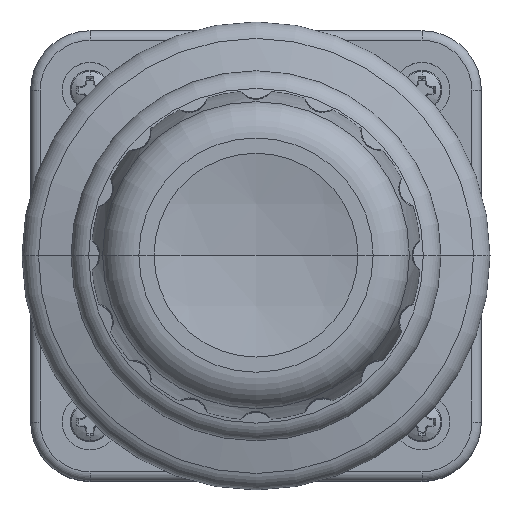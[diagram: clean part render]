
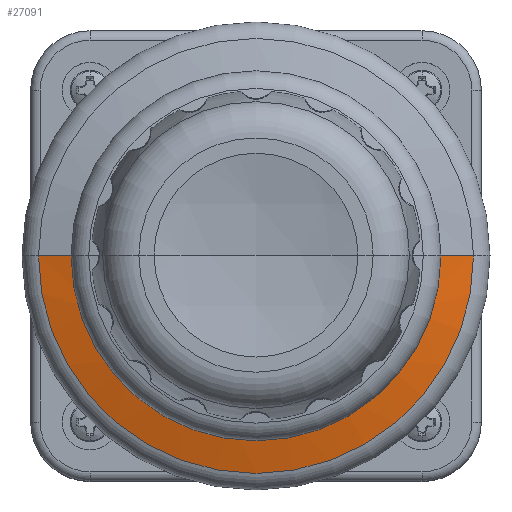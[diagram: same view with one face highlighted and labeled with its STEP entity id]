
A CAD part, top view. The second image highlights one B-rep face of the part: STEP entity #27091.
In plain terms, the highlighted conical face has half-angle 75 degrees and reference radius 11.437 mm.
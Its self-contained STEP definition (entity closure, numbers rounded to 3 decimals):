
#27091 = ADVANCED_FACE('',(#27092),#27107,.T.);
#27092 = FACE_BOUND('',#27093,.T.);
#27093 = EDGE_LOOP('',(#27094,#27118,#27146,#27175));
#27094 = ORIENTED_EDGE('',*,*,#27095,.T.);
#27095 = EDGE_CURVE('',#27096,#27098,#27100,.T.);
#27096 = VERTEX_POINT('',#27097);
#27097 = CARTESIAN_POINT('',(11.437,0.,
    12.684));
#27098 = VERTEX_POINT('',#27099);
#27099 = CARTESIAN_POINT('',(-11.438,0.,
    12.684));
#27100 = SURFACE_CURVE('',#27101,(#27106),.PCURVE_S1.);
#27101 = CIRCLE('',#27102,11.437);
#27102 = AXIS2_PLACEMENT_3D('',#27103,#27104,#27105);
#27103 = CARTESIAN_POINT('',(0.,0.,
    12.684));
#27104 = DIRECTION('',(0.,0.,-1.));
#27105 = DIRECTION('',(1.,0.,0.));
#27106 = PCURVE('',#27107,#27112);
#27107 = CONICAL_SURFACE('',#27108,11.437,1.309);
#27108 = AXIS2_PLACEMENT_3D('',#27109,#27110,#27111);
#27109 = CARTESIAN_POINT('',(0.,0.,
    12.684));
#27110 = DIRECTION('',(0.,0.,-1.));
#27111 = DIRECTION('',(1.,0.,0.));
#27112 = DEFINITIONAL_REPRESENTATION('',(#27113),#27117);
#27113 = LINE('',#27114,#27115);
#27114 = CARTESIAN_POINT('',(0.,0.));
#27115 = VECTOR('',#27116,1.);
#27116 = DIRECTION('',(1.,0.));
#27117 = ( GEOMETRIC_REPRESENTATION_CONTEXT(2) 
PARAMETRIC_REPRESENTATION_CONTEXT() REPRESENTATION_CONTEXT('2D SPACE',''
  ) );
#27118 = ORIENTED_EDGE('',*,*,#27119,.T.);
#27119 = EDGE_CURVE('',#27098,#27120,#27122,.T.);
#27120 = VERTEX_POINT('',#27121);
#27121 = CARTESIAN_POINT('',(-23.298,0.,
    9.506));
#27122 = SURFACE_CURVE('',#27123,(#27127,#27134),.PCURVE_S1.);
#27123 = LINE('',#27124,#27125);
#27124 = CARTESIAN_POINT('',(-11.438,0.,
    12.684));
#27125 = VECTOR('',#27126,1.);
#27126 = DIRECTION('',(-0.966,0.,
    -0.259));
#27127 = PCURVE('',#27107,#27128);
#27128 = DEFINITIONAL_REPRESENTATION('',(#27129),#27133);
#27129 = LINE('',#27130,#27131);
#27130 = CARTESIAN_POINT('',(3.142,0.));
#27131 = VECTOR('',#27132,1.);
#27132 = DIRECTION('',(0.,1.));
#27133 = ( GEOMETRIC_REPRESENTATION_CONTEXT(2) 
PARAMETRIC_REPRESENTATION_CONTEXT() REPRESENTATION_CONTEXT('2D SPACE',''
  ) );
#27134 = PCURVE('',#27135,#27140);
#27135 = CONICAL_SURFACE('',#27136,11.437,1.309);
#27136 = AXIS2_PLACEMENT_3D('',#27137,#27138,#27139);
#27137 = CARTESIAN_POINT('',(0.,0.,
    12.684));
#27138 = DIRECTION('',(0.,0.,-1.));
#27139 = DIRECTION('',(1.,0.,0.));
#27140 = DEFINITIONAL_REPRESENTATION('',(#27141),#27145);
#27141 = LINE('',#27142,#27143);
#27142 = CARTESIAN_POINT('',(3.142,0.));
#27143 = VECTOR('',#27144,1.);
#27144 = DIRECTION('',(0.,1.));
#27145 = ( GEOMETRIC_REPRESENTATION_CONTEXT(2) 
PARAMETRIC_REPRESENTATION_CONTEXT() REPRESENTATION_CONTEXT('2D SPACE',''
  ) );
#27146 = ORIENTED_EDGE('',*,*,#27147,.F.);
#27147 = EDGE_CURVE('',#27148,#27120,#27150,.T.);
#27148 = VERTEX_POINT('',#27149);
#27149 = CARTESIAN_POINT('',(23.298,0.,
    9.506));
#27150 = SURFACE_CURVE('',#27151,(#27156,#27163),.PCURVE_S1.);
#27151 = CIRCLE('',#27152,23.298);
#27152 = AXIS2_PLACEMENT_3D('',#27153,#27154,#27155);
#27153 = CARTESIAN_POINT('',(0.,0.,
    9.506));
#27154 = DIRECTION('',(0.,0.,-1.));
#27155 = DIRECTION('',(1.,0.,0.));
#27156 = PCURVE('',#27107,#27157);
#27157 = DEFINITIONAL_REPRESENTATION('',(#27158),#27162);
#27158 = LINE('',#27159,#27160);
#27159 = CARTESIAN_POINT('',(0.,3.178));
#27160 = VECTOR('',#27161,1.);
#27161 = DIRECTION('',(1.,0.));
#27162 = ( GEOMETRIC_REPRESENTATION_CONTEXT(2) 
PARAMETRIC_REPRESENTATION_CONTEXT() REPRESENTATION_CONTEXT('2D SPACE',''
  ) );
#27163 = PCURVE('',#27164,#27169);
#27164 = TOROIDAL_SURFACE('',#27165,22.68,2.388);
#27165 = AXIS2_PLACEMENT_3D('',#27166,#27167,#27168);
#27166 = CARTESIAN_POINT('',(0.,0.,
    7.2));
#27167 = DIRECTION('',(0.,0.,-1.));
#27168 = DIRECTION('',(1.,0.,0.));
#27169 = DEFINITIONAL_REPRESENTATION('',(#27170),#27174);
#27170 = LINE('',#27171,#27172);
#27171 = CARTESIAN_POINT('',(0.,4.974));
#27172 = VECTOR('',#27173,1.);
#27173 = DIRECTION('',(1.,0.));
#27174 = ( GEOMETRIC_REPRESENTATION_CONTEXT(2) 
PARAMETRIC_REPRESENTATION_CONTEXT() REPRESENTATION_CONTEXT('2D SPACE',''
  ) );
#27175 = ORIENTED_EDGE('',*,*,#27176,.F.);
#27176 = EDGE_CURVE('',#27096,#27148,#27177,.T.);
#27177 = SURFACE_CURVE('',#27178,(#27182,#27189),.PCURVE_S1.);
#27178 = LINE('',#27179,#27180);
#27179 = CARTESIAN_POINT('',(11.437,0.,
    12.684));
#27180 = VECTOR('',#27181,1.);
#27181 = DIRECTION('',(0.966,0.,
    -0.259));
#27182 = PCURVE('',#27107,#27183);
#27183 = DEFINITIONAL_REPRESENTATION('',(#27184),#27188);
#27184 = LINE('',#27185,#27186);
#27185 = CARTESIAN_POINT('',(0.,0.));
#27186 = VECTOR('',#27187,1.);
#27187 = DIRECTION('',(0.,1.));
#27188 = ( GEOMETRIC_REPRESENTATION_CONTEXT(2) 
PARAMETRIC_REPRESENTATION_CONTEXT() REPRESENTATION_CONTEXT('2D SPACE',''
  ) );
#27189 = PCURVE('',#27135,#27190);
#27190 = DEFINITIONAL_REPRESENTATION('',(#27191),#27195);
#27191 = LINE('',#27192,#27193);
#27192 = CARTESIAN_POINT('',(6.283,0.));
#27193 = VECTOR('',#27194,1.);
#27194 = DIRECTION('',(0.,1.));
#27195 = ( GEOMETRIC_REPRESENTATION_CONTEXT(2) 
PARAMETRIC_REPRESENTATION_CONTEXT() REPRESENTATION_CONTEXT('2D SPACE',''
  ) );
